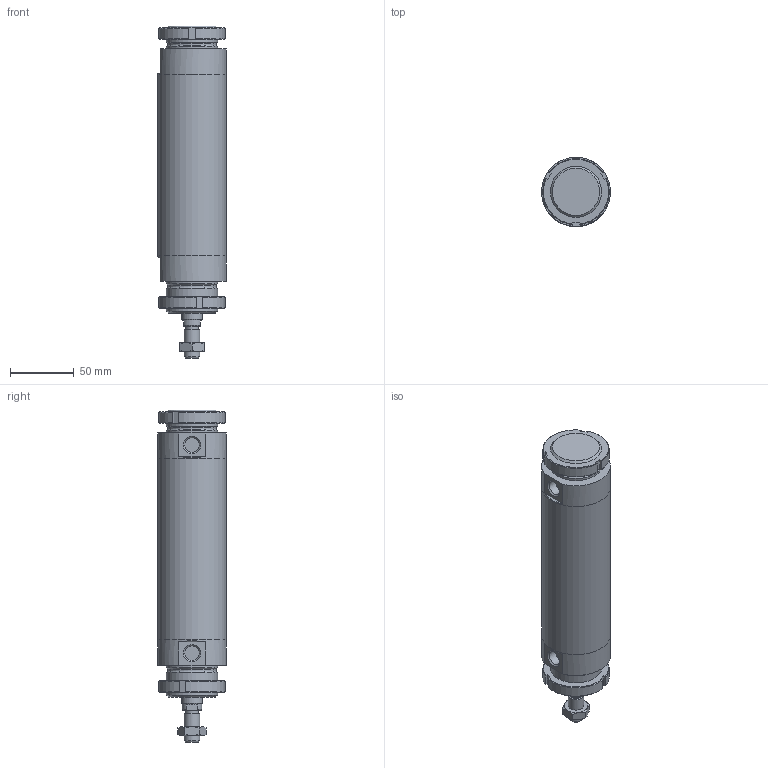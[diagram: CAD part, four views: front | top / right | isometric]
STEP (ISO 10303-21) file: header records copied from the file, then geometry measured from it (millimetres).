
FILE_DESCRIPTION(/* description */ (''),/* implementation_level */ '2;1');
FILE_NAME(/* name */ 'I:\Area Tecnica\Documenti\A-Manieri\_Inventor\12X\12X#C_###_####_#_#\12XAC_050_0100_#_#.stp',/* time_stamp */ '2015-04-28T15:19:48+02:00',/* author */ ('maniean1'),/* organization */ ('Pneumax S.p.A.'),/* preprocessor_version */ 'ST-DEVELOPER v15.2',/* originating_system */ 'Autodesk Inventor 2014',/* authorisation */ '');
FILE_SCHEMA (('AUTOMOTIVE_DESIGN { 1 0 10303 214 3 1 1 }'));
Length unit declared in the file: millimetre
Products named in the file (7): C1250_619-0100; 12X50_604; S12X50_0100; 12X_50_11; 12X50_620; G12X_050_05; 12XAC_050_0100_#_#
Bounding box: 54 x 54 x 260 mm (x, y, z)
Volume: 314200.6 mm3; surface area: 99405.8 mm2
Topology: 7 solids, 7 shells, 106 faces, 240 edges, 154 vertices
Faces by surface type: plane 52, cylinder 27, cone 27
Full cylindrical faces by diameter (mm): 10.2 x1, 11.4 x2, 12 x2, 14 x1, 15.6 x1, 16 x1, 38.2 x2, 40 x6, 50 x2, 54 x3
Entity records: 2243 total; most frequent: CARTESIAN_POINT 413, DIRECTION 382, ORIENTED_EDGE 292, AXIS2_PLACEMENT_3D 165, EDGE_CURVE 146, EDGE_LOOP 132, VERTEX_POINT 112, ADVANCED_FACE 85
